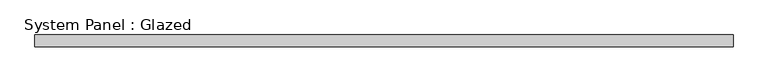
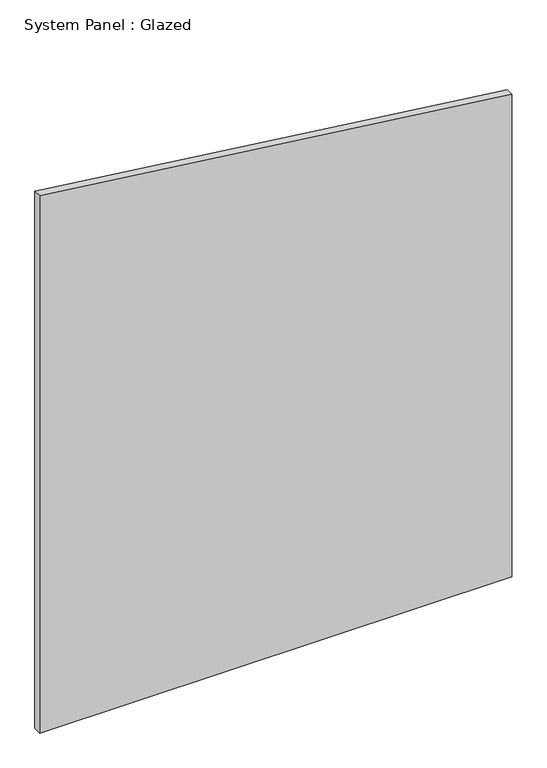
"""IFC4 building model written with IfcOpenShell, lengths in millimetres: plate geometry, System Panel : Glazed."""

from ifc_helpers import new_model, si_unit, frame, origin, place, context, project, spatial, polyline, outline, extrude, source, transform, mapped, element, save


def system_panel_glazed_59f877d7(model_context):
    return source(origin(), model_context, "Body", "SweptSolid", [
        extrude(outline(polyline([(0.0, -726.9631579), (0.0, 726.9631579), (1569.6185489, 726.9631579), (1748.1382531, -726.9631579), (0.0, -726.9631579)])), frame((0.0, 24.5, 0.0), z_axis=(0.0, 1.0, 0.0), x_axis=(0.0, 0.0, 1.0)), (0.0, 0.0, 1.0), 25.0),
    ])


if __name__ == "__main__":
    model = new_model("IFC4")
    model_context = context("Model", 3, world=origin())
    ifc_project = project(units=[si_unit("LENGTHUNIT", "METRE", prefix="MILLI")], contexts=[model_context])
    site = spatial("IfcSite", under=ifc_project)
    building = spatial("IfcBuilding", under=site)
    placement = place(None, origin())
    system_panel_glazed_shape = system_panel_glazed_59f877d7(model_context)
    element("IfcPlate", 1, ObjectType="System Panel : Glazed", at=placement, inside=building, context=model_context, shape_type="MappedRepresentation", body=[
        mapped(system_panel_glazed_shape, transform((0.0, 0.0, 0.0), x_axis=(1.0, 0.0, 0.0), y_axis=(0.0, 1.0, 0.0), z_axis=(0.0, 0.0, 1.0))),
    ])
    save(model, "model.ifc")
